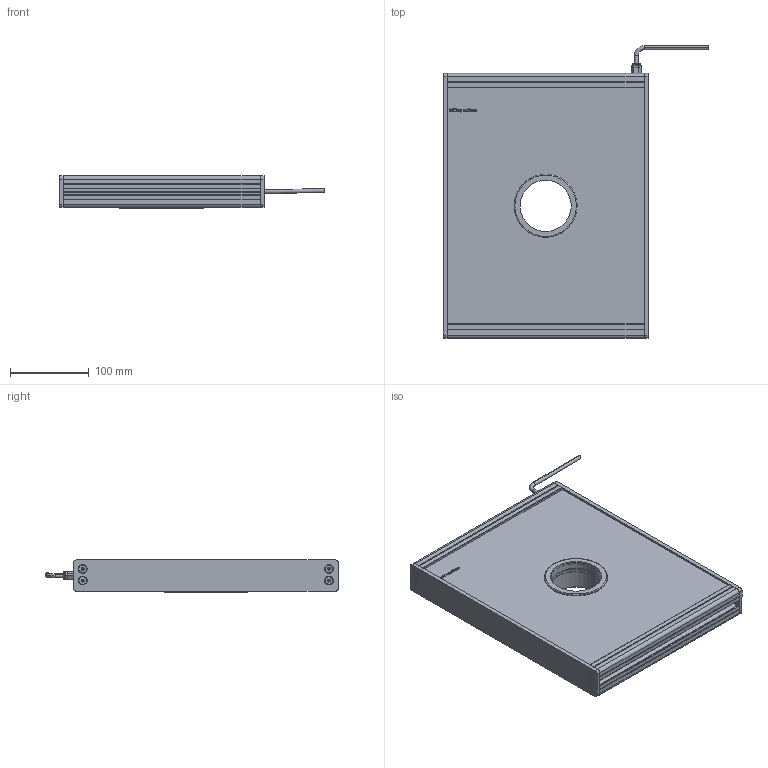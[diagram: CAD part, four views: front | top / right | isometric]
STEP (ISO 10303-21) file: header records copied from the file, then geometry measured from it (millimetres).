
FILE_DESCRIPTION (( 'STEP AP214' ), '1' );
FILE_NAME ('EFFI-FD-250T-300-M12 Ø65.STEP', '2021-07-02T12:32:34', ( '' ), ( '' ), 'SwSTEP 2.0', 'SolidWorks 2021', '' );
FILE_SCHEMA (( 'AUTOMOTIVE_DESIGN' ));
Length unit declared in the file: millimetre
Products named in the file (11): profile modif_lg 99.5 mm; cordon_Avec cable; Assemblage Ø65; EFFI-FD-250T-300-M12 Ø65; 000590; 004408; 004409; bord fin modif_lg 436.5 mm; 003776; Pièce2^EFFI-FD-XXXT-YYY-M12 Ø65
Assembly tree (20 placements, depth 3):
  EFFI-FD-250T-300-M12 Ø65
    profile modif_lg 99.5 mm
    bord fin modif_lg 436.5 mm  x2
    Pièce2^EFFI-FD-XXXT-YYY-M12 Ø65
    profile modif_lg 99.5 mm
    003776  x8
    cordon_Avec cable
    Assemblage Ø65
      004408
      004409
      000590  x3
Bounding box: 337.13 x 371.15 x 41 mm (x, y, z)
Volume: 2927813.2 mm3; surface area: 367394.2 mm2
Topology: 18 solids, 24 shells, 1002 faces, 2513 edges, 1575 vertices
Faces by surface type: plane 392, cylinder 233, bspline 180, cone 154, torus 35, sphere 8
Entity records: 25569 total; most frequent: CARTESIAN_POINT 8641, ORIENTED_EDGE 3310, DIRECTION 3055, EDGE_CURVE 1659, VERTEX_POINT 1072, AXIS2_PLACEMENT_3D 1032, VECTOR 991, LINE 991
